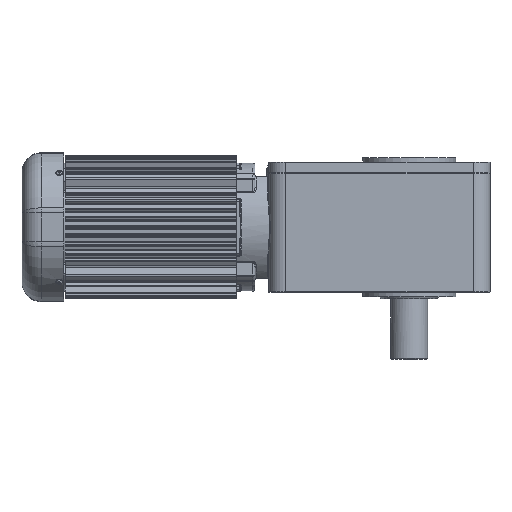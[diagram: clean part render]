
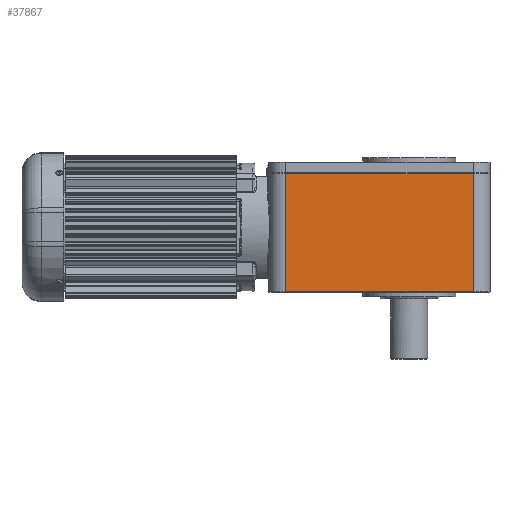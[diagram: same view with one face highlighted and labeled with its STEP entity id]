
A CAD part, front view. The second image highlights one B-rep face of the part: STEP entity #37867.
In plain terms, the highlighted planar face has unit normal (0, -1, 0).
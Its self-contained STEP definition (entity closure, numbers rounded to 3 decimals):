
#2586=LINE('',#66969,#5118);
#2587=LINE('',#66971,#5119);
#2588=LINE('',#66973,#5120);
#2589=LINE('',#66974,#5121);
#5118=VECTOR('',#50152,202.);
#5119=VECTOR('',#50153,127.);
#5120=VECTOR('',#50154,202.);
#5121=VECTOR('',#50155,127.);
#8477=FACE_OUTER_BOUND('',#10766,.T.);
#10766=EDGE_LOOP('',(#29834,#29835,#29836,#29837));
#16317=VERTEX_POINT('',#66967);
#16318=VERTEX_POINT('',#66968);
#16319=VERTEX_POINT('',#66970);
#16320=VERTEX_POINT('',#66972);
#21000=EDGE_CURVE('',#16317,#16318,#2586,.T.);
#21001=EDGE_CURVE('',#16317,#16319,#2587,.T.);
#21002=EDGE_CURVE('',#16320,#16319,#2588,.T.);
#21003=EDGE_CURVE('',#16318,#16320,#2589,.T.);
#29834=ORIENTED_EDGE('',*,*,#21000,.F.);
#29835=ORIENTED_EDGE('',*,*,#21001,.T.);
#29836=ORIENTED_EDGE('',*,*,#21002,.F.);
#29837=ORIENTED_EDGE('',*,*,#21003,.F.);
#34415=PLANE('',#41499);
#37867=ADVANCED_FACE('',(#8477),#34415,.T.);
#41499=AXIS2_PLACEMENT_3D('',#66966,#50150,#50151);
#50150=DIRECTION('center_axis',(0.,-1.,0.));
#50151=DIRECTION('ref_axis',(0.,0.,-1.));
#50152=DIRECTION('',(1.,0.,0.));
#50153=DIRECTION('',(0.,0.,-1.));
#50154=DIRECTION('',(-1.,0.,0.));
#50155=DIRECTION('',(0.,0.,-1.));
#66966=CARTESIAN_POINT('Origin',(69.,-124.,0.));
#66967=CARTESIAN_POINT('',(-133.,-124.,57.5));
#66968=CARTESIAN_POINT('',(69.,-124.,57.5));
#66969=CARTESIAN_POINT('',(-133.,-124.,57.5));
#66970=CARTESIAN_POINT('',(-133.,-124.,-69.5));
#66971=CARTESIAN_POINT('',(-133.,-124.,57.5));
#66972=CARTESIAN_POINT('',(69.,-124.,-69.5));
#66973=CARTESIAN_POINT('',(69.,-124.,-69.5));
#66974=CARTESIAN_POINT('',(69.,-124.,57.5));
